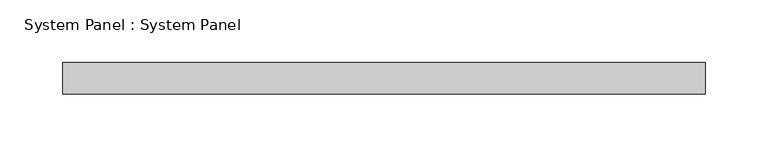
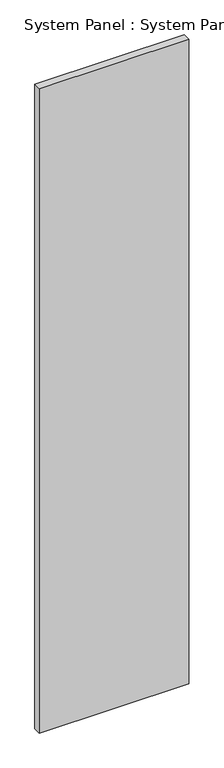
"""IFC4 building model written with IfcOpenShell, lengths in millimetres: plate geometry, System Panel : System Panel."""

from ifc_helpers import new_model, si_unit, origin, origin_with_axes, place, context, project, spatial, polyline, outline, extrude, source, transform, mapped, element, save


def system_panel_system_panel_8fb97314(model_context):
    return source(origin(), model_context, "Body", "SweptSolid", [
        extrude(outline(polyline([(257.175, 19.05), (-257.175, 19.05), (-257.175, 44.45), (257.175, 44.45), (257.175, 19.05)])), origin_with_axes(), (0.0, 0.0, 1.0), 2343.15),
    ])


if __name__ == "__main__":
    model = new_model("IFC4")
    model_context = context("Model", 3, world=origin())
    ifc_project = project(units=[si_unit("LENGTHUNIT", "METRE", prefix="MILLI")], contexts=[model_context])
    site = spatial("IfcSite", under=ifc_project)
    building = spatial("IfcBuilding", under=site)
    placement = place(None, origin())
    system_panel_system_panel_shape = system_panel_system_panel_8fb97314(model_context)
    element("IfcPlate", 1, ObjectType="System Panel : System Panel", at=placement, inside=building, context=model_context, shape_type="MappedRepresentation", body=[
        mapped(system_panel_system_panel_shape, transform((0.0, 0.0, 0.0), x_axis=(1.0, 0.0, 0.0), y_axis=(0.0, 1.0, 0.0), z_axis=(0.0, 0.0, 1.0))),
    ])
    save(model, "model.ifc")
